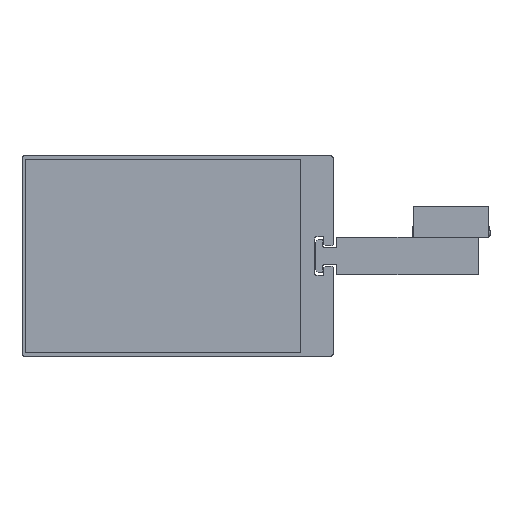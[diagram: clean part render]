
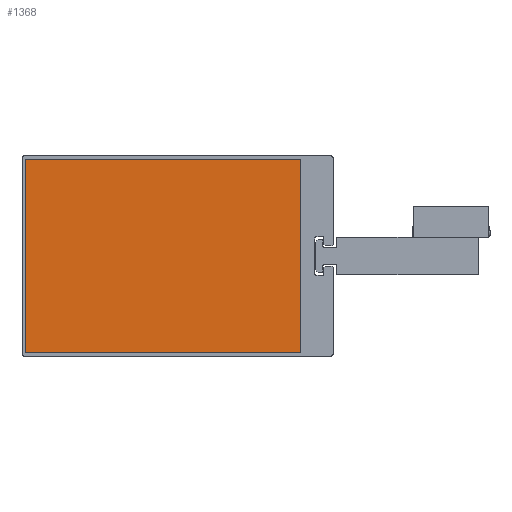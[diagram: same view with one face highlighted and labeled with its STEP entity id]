
A CAD part, top view. The second image highlights one B-rep face of the part: STEP entity #1368.
In plain terms, the highlighted planar face has unit normal (0, 0, 1).
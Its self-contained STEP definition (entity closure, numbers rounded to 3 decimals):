
#19 = VECTOR ( 'NONE', #284, 1000. ) ;
#168 = EDGE_CURVE ( 'NONE', #556, #3374, #4311, .T. ) ;
#218 = CARTESIAN_POINT ( 'NONE',  ( 106., -83.5, -5.5 ) ) ;
#284 = DIRECTION ( 'NONE',  ( -1., 0., 0. ) ) ;
#346 = LINE ( 'NONE', #1254, #5442 ) ;
#414 = DIRECTION ( 'NONE',  ( 0., 0., 1. ) ) ;
#556 = VERTEX_POINT ( 'NONE', #5192 ) ;
#619 = CARTESIAN_POINT ( 'NONE',  ( 106., -83.5, -5.5 ) ) ;
#747 = VERTEX_POINT ( 'NONE', #1711 ) ;
#772 = LINE ( 'NONE', #218, #1546 ) ;
#1254 = CARTESIAN_POINT ( 'NONE',  ( -131., 83.5, -5.5 ) ) ;
#1321 = EDGE_CURVE ( 'NONE', #4360, #747, #2281, .T. ) ;
#1368 = ADVANCED_FACE ( 'NONE', ( #3813 ), #1763, .T. ) ;
#1441 = AXIS2_PLACEMENT_3D ( 'NONE', #3535, #414, #5422 ) ;
#1546 = VECTOR ( 'NONE', #5781, 1000. ) ;
#1711 = CARTESIAN_POINT ( 'NONE',  ( -131., 83.5, -5.5 ) ) ;
#1763 = PLANE ( 'NONE',  #1441 ) ;
#1994 = ORIENTED_EDGE ( 'NONE', *, *, #168, .T. ) ;
#2113 = CARTESIAN_POINT ( 'NONE',  ( -131., -83.5, -5.5 ) ) ;
#2281 = LINE ( 'NONE', #5310, #19 ) ;
#2307 = ORIENTED_EDGE ( 'NONE', *, *, #1321, .T. ) ;
#2963 = EDGE_CURVE ( 'NONE', #3374, #4360, #772, .T. ) ;
#3039 = EDGE_CURVE ( 'NONE', #747, #556, #346, .T. ) ;
#3090 = DIRECTION ( 'NONE',  ( 0., -1., 0. ) ) ;
#3095 = VECTOR ( 'NONE', #4903, 1000. ) ;
#3374 = VERTEX_POINT ( 'NONE', #619 ) ;
#3535 = CARTESIAN_POINT ( 'NONE',  ( -12.5, 0., -5.5 ) ) ;
#3608 = CARTESIAN_POINT ( 'NONE',  ( 106., 83.5, -5.5 ) ) ;
#3813 = FACE_OUTER_BOUND ( 'NONE', #5522, .T. ) ;
#4311 = LINE ( 'NONE', #2113, #3095 ) ;
#4360 = VERTEX_POINT ( 'NONE', #3608 ) ;
#4903 = DIRECTION ( 'NONE',  ( 1., 0., 0. ) ) ;
#5192 = CARTESIAN_POINT ( 'NONE',  ( -131., -83.5, -5.5 ) ) ;
#5215 = ORIENTED_EDGE ( 'NONE', *, *, #3039, .T. ) ;
#5310 = CARTESIAN_POINT ( 'NONE',  ( 106., 83.5, -5.5 ) ) ;
#5422 = DIRECTION ( 'NONE',  ( 1., 0., 0. ) ) ;
#5442 = VECTOR ( 'NONE', #3090, 1000. ) ;
#5522 = EDGE_LOOP ( 'NONE', ( #5758, #2307, #5215, #1994 ) ) ;
#5758 = ORIENTED_EDGE ( 'NONE', *, *, #2963, .T. ) ;
#5781 = DIRECTION ( 'NONE',  ( 0., 1., 0. ) ) ;
